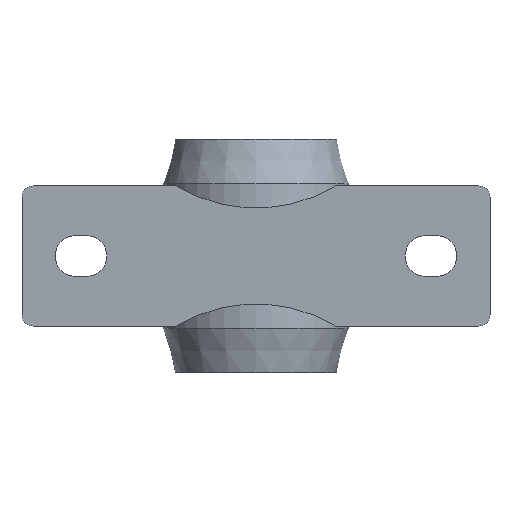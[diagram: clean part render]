
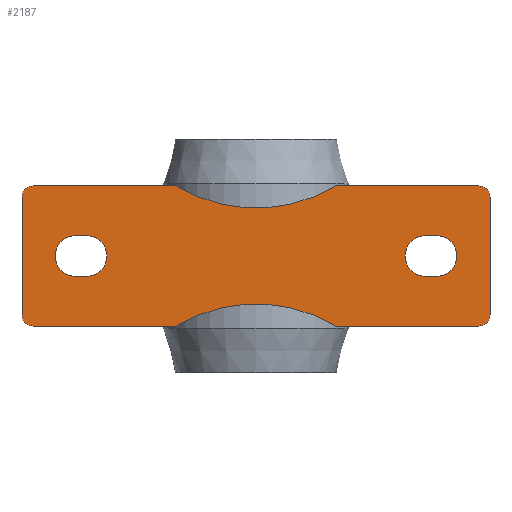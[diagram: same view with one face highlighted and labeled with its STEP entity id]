
A CAD part, front view. The second image highlights one B-rep face of the part: STEP entity #2187.
In plain terms, the highlighted planar face has unit normal (0, -1, 0).
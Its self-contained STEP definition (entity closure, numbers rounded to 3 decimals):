
#102=FACE_BOUND('',#318,.T.);
#103=FACE_BOUND('',#319,.T.);
#128=PLANE('',#2441);
#191=FACE_OUTER_BOUND('',#317,.T.);
#317=EDGE_LOOP('',(#1423,#1424,#1425,#1426,#1427,#1428,#1429,#1430,#1431,
#1432,#1433,#1434));
#318=EDGE_LOOP('',(#1435,#1436,#1437,#1438));
#319=EDGE_LOOP('',(#1439,#1440,#1441,#1442));
#503=LINE('',#3403,#636);
#504=LINE('',#3407,#637);
#505=LINE('',#3411,#638);
#506=LINE('',#3415,#639);
#507=LINE('',#3419,#640);
#508=LINE('',#3422,#641);
#509=LINE('',#3427,#642);
#510=LINE('',#3430,#643);
#511=LINE('',#3435,#644);
#512=LINE('',#3438,#645);
#636=VECTOR('',#2712,10.);
#637=VECTOR('',#2715,10.);
#638=VECTOR('',#2718,10.);
#639=VECTOR('',#2721,10.);
#640=VECTOR('',#2724,10.);
#641=VECTOR('',#2727,10.);
#642=VECTOR('',#2730,10.);
#643=VECTOR('',#2733,10.);
#644=VECTOR('',#2736,10.);
#645=VECTOR('',#2739,10.);
#770=CIRCLE('',#2442,3.);
#771=CIRCLE('',#2443,42.);
#772=CIRCLE('',#2444,3.);
#773=CIRCLE('',#2445,3.);
#774=CIRCLE('',#2446,42.);
#775=CIRCLE('',#2447,3.);
#776=CIRCLE('',#2448,5.5);
#777=CIRCLE('',#2449,5.5);
#778=CIRCLE('',#2450,5.5);
#779=CIRCLE('',#2451,5.5);
#891=VERTEX_POINT('',#3399);
#892=VERTEX_POINT('',#3400);
#893=VERTEX_POINT('',#3402);
#894=VERTEX_POINT('',#3404);
#895=VERTEX_POINT('',#3406);
#896=VERTEX_POINT('',#3408);
#897=VERTEX_POINT('',#3410);
#898=VERTEX_POINT('',#3412);
#899=VERTEX_POINT('',#3414);
#900=VERTEX_POINT('',#3416);
#901=VERTEX_POINT('',#3418);
#902=VERTEX_POINT('',#3420);
#903=VERTEX_POINT('',#3423);
#904=VERTEX_POINT('',#3424);
#905=VERTEX_POINT('',#3426);
#906=VERTEX_POINT('',#3428);
#907=VERTEX_POINT('',#3431);
#908=VERTEX_POINT('',#3432);
#909=VERTEX_POINT('',#3434);
#910=VERTEX_POINT('',#3436);
#1106=EDGE_CURVE('',#891,#892,#770,.T.);
#1107=EDGE_CURVE('',#891,#893,#503,.T.);
#1108=EDGE_CURVE('',#893,#894,#771,.T.);
#1109=EDGE_CURVE('',#894,#895,#504,.T.);
#1110=EDGE_CURVE('',#896,#895,#772,.T.);
#1111=EDGE_CURVE('',#896,#897,#505,.T.);
#1112=EDGE_CURVE('',#898,#897,#773,.T.);
#1113=EDGE_CURVE('',#899,#898,#506,.T.);
#1114=EDGE_CURVE('',#899,#900,#774,.T.);
#1115=EDGE_CURVE('',#901,#900,#507,.T.);
#1116=EDGE_CURVE('',#902,#901,#775,.T.);
#1117=EDGE_CURVE('',#902,#892,#508,.T.);
#1118=EDGE_CURVE('',#903,#904,#776,.T.);
#1119=EDGE_CURVE('',#904,#905,#509,.T.);
#1120=EDGE_CURVE('',#905,#906,#777,.T.);
#1121=EDGE_CURVE('',#906,#903,#510,.T.);
#1122=EDGE_CURVE('',#907,#908,#778,.T.);
#1123=EDGE_CURVE('',#908,#909,#511,.T.);
#1124=EDGE_CURVE('',#909,#910,#779,.T.);
#1125=EDGE_CURVE('',#910,#907,#512,.T.);
#1423=ORIENTED_EDGE('',*,*,#1106,.F.);
#1424=ORIENTED_EDGE('',*,*,#1107,.T.);
#1425=ORIENTED_EDGE('',*,*,#1108,.T.);
#1426=ORIENTED_EDGE('',*,*,#1109,.T.);
#1427=ORIENTED_EDGE('',*,*,#1110,.F.);
#1428=ORIENTED_EDGE('',*,*,#1111,.T.);
#1429=ORIENTED_EDGE('',*,*,#1112,.F.);
#1430=ORIENTED_EDGE('',*,*,#1113,.F.);
#1431=ORIENTED_EDGE('',*,*,#1114,.T.);
#1432=ORIENTED_EDGE('',*,*,#1115,.F.);
#1433=ORIENTED_EDGE('',*,*,#1116,.F.);
#1434=ORIENTED_EDGE('',*,*,#1117,.T.);
#1435=ORIENTED_EDGE('',*,*,#1118,.T.);
#1436=ORIENTED_EDGE('',*,*,#1119,.T.);
#1437=ORIENTED_EDGE('',*,*,#1120,.T.);
#1438=ORIENTED_EDGE('',*,*,#1121,.T.);
#1439=ORIENTED_EDGE('',*,*,#1122,.T.);
#1440=ORIENTED_EDGE('',*,*,#1123,.T.);
#1441=ORIENTED_EDGE('',*,*,#1124,.T.);
#1442=ORIENTED_EDGE('',*,*,#1125,.T.);
#2187=ADVANCED_FACE('',(#191,#102,#103),#128,.F.);
#2441=AXIS2_PLACEMENT_3D('',#3398,#2708,#2709);
#2442=AXIS2_PLACEMENT_3D('',#3401,#2710,#2711);
#2443=AXIS2_PLACEMENT_3D('',#3405,#2713,#2714);
#2444=AXIS2_PLACEMENT_3D('',#3409,#2716,#2717);
#2445=AXIS2_PLACEMENT_3D('',#3413,#2719,#2720);
#2446=AXIS2_PLACEMENT_3D('',#3417,#2722,#2723);
#2447=AXIS2_PLACEMENT_3D('',#3421,#2725,#2726);
#2448=AXIS2_PLACEMENT_3D('',#3425,#2728,#2729);
#2449=AXIS2_PLACEMENT_3D('',#3429,#2731,#2732);
#2450=AXIS2_PLACEMENT_3D('',#3433,#2734,#2735);
#2451=AXIS2_PLACEMENT_3D('',#3437,#2737,#2738);
#2708=DIRECTION('center_axis',(0.,1.,0.));
#2709=DIRECTION('ref_axis',(0.,0.,1.));
#2710=DIRECTION('center_axis',(0.,1.,0.));
#2711=DIRECTION('ref_axis',(-0.707,0.,-0.707));
#2712=DIRECTION('',(1.,0.,0.));
#2713=DIRECTION('center_axis',(0.,1.,0.));
#2714=DIRECTION('ref_axis',(1.,0.,0.));
#2715=DIRECTION('',(1.,0.,0.));
#2716=DIRECTION('center_axis',(0.,1.,0.));
#2717=DIRECTION('ref_axis',(0.707,0.,-0.707));
#2718=DIRECTION('',(0.,0.,1.));
#2719=DIRECTION('center_axis',(0.,1.,0.));
#2720=DIRECTION('ref_axis',(0.707,0.,0.707));
#2721=DIRECTION('',(1.,0.,0.));
#2722=DIRECTION('center_axis',(0.,1.,0.));
#2723=DIRECTION('ref_axis',(1.,0.,0.));
#2724=DIRECTION('',(1.,0.,0.));
#2725=DIRECTION('center_axis',(0.,1.,0.));
#2726=DIRECTION('ref_axis',(-0.707,0.,0.707));
#2727=DIRECTION('',(0.,0.,-1.));
#2728=DIRECTION('center_axis',(0.,1.,0.));
#2729=DIRECTION('ref_axis',(0.,0.,1.));
#2730=DIRECTION('',(1.,0.,0.));
#2731=DIRECTION('center_axis',(0.,1.,0.));
#2732=DIRECTION('ref_axis',(0.,0.,-1.));
#2733=DIRECTION('',(-1.,0.,0.));
#2734=DIRECTION('center_axis',(0.,1.,0.));
#2735=DIRECTION('ref_axis',(0.,0.,1.));
#2736=DIRECTION('',(-1.,0.,0.));
#2737=DIRECTION('center_axis',(0.,1.,0.));
#2738=DIRECTION('ref_axis',(0.,0.,-1.));
#2739=DIRECTION('',(1.,0.,0.));
#3398=CARTESIAN_POINT('Origin',(-31.7,-33.3,0.));
#3399=CARTESIAN_POINT('',(-60.5,-33.3,-19.));
#3400=CARTESIAN_POINT('',(-63.5,-33.3,-16.));
#3401=CARTESIAN_POINT('Origin',(-60.5,-33.3,-16.));
#3402=CARTESIAN_POINT('',(-21.633,-33.3,-19.));
#3403=CARTESIAN_POINT('',(-63.5,-33.3,-19.));
#3404=CARTESIAN_POINT('',(21.633,-33.3,-19.));
#3405=CARTESIAN_POINT('Origin',(0.,-33.3,-55.));
#3406=CARTESIAN_POINT('',(60.5,-33.3,-19.));
#3407=CARTESIAN_POINT('',(-63.5,-33.3,-19.));
#3408=CARTESIAN_POINT('',(63.5,-33.3,-16.));
#3409=CARTESIAN_POINT('Origin',(60.5,-33.3,-16.));
#3410=CARTESIAN_POINT('',(63.5,-33.3,16.));
#3411=CARTESIAN_POINT('',(63.5,-33.3,0.));
#3412=CARTESIAN_POINT('',(60.5,-33.3,19.));
#3413=CARTESIAN_POINT('Origin',(60.5,-33.3,16.));
#3414=CARTESIAN_POINT('',(21.633,-33.3,19.));
#3415=CARTESIAN_POINT('',(-10.,-33.3,19.));
#3416=CARTESIAN_POINT('',(-21.633,-33.3,19.));
#3417=CARTESIAN_POINT('Origin',(0.,-33.3,55.));
#3418=CARTESIAN_POINT('',(-60.5,-33.3,19.));
#3419=CARTESIAN_POINT('',(-10.,-33.3,19.));
#3420=CARTESIAN_POINT('',(-63.5,-33.3,16.));
#3421=CARTESIAN_POINT('Origin',(-60.5,-33.3,16.));
#3422=CARTESIAN_POINT('',(-63.5,-33.3,0.));
#3423=CARTESIAN_POINT('',(46.,-33.3,-5.5));
#3424=CARTESIAN_POINT('',(46.,-33.3,5.5));
#3425=CARTESIAN_POINT('Origin',(46.,-33.3,0.));
#3426=CARTESIAN_POINT('',(49.,-33.3,5.5));
#3427=CARTESIAN_POINT('',(8.65,-33.3,5.5));
#3428=CARTESIAN_POINT('',(49.,-33.3,-5.5));
#3429=CARTESIAN_POINT('Origin',(49.,-33.3,0.));
#3430=CARTESIAN_POINT('',(7.15,-33.3,-5.5));
#3431=CARTESIAN_POINT('',(-46.,-33.3,5.5));
#3432=CARTESIAN_POINT('',(-46.,-33.3,-5.5));
#3433=CARTESIAN_POINT('Origin',(-46.,-33.3,0.));
#3434=CARTESIAN_POINT('',(-49.,-33.3,-5.5));
#3435=CARTESIAN_POINT('',(-40.35,-33.3,-5.5));
#3436=CARTESIAN_POINT('',(-49.,-33.3,5.5));
#3437=CARTESIAN_POINT('Origin',(-49.,-33.3,0.));
#3438=CARTESIAN_POINT('',(-38.85,-33.3,5.5));
